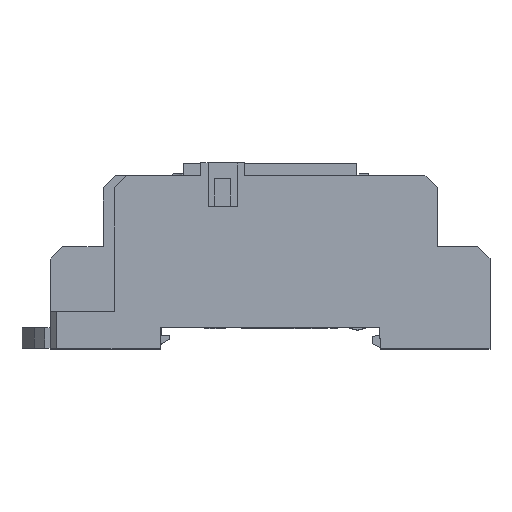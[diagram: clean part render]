
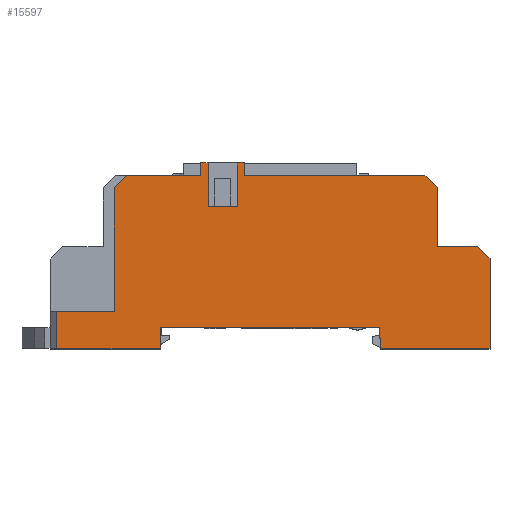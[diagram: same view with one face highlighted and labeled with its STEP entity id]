
A CAD part, top view. The second image highlights one B-rep face of the part: STEP entity #15597.
In plain terms, the highlighted planar face has unit normal (0, 0, 1).
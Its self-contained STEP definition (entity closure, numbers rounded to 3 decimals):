
#15597=ADVANCED_FACE('',(#19739),#17789,.T.);
#17789=PLANE('',#58201);
#19739=FACE_OUTER_BOUND('',#21965,.T.);
#21965=EDGE_LOOP('',(#30892,#30893,#30894,#30895,#30896,#30897,#30898,#30899,
#30900,#30901,#30902,#30903,#30904,#30905,#30906,#30907,#30908,#30909,#30910,
#30911,#30912,#30913,#30914));
#30892=ORIENTED_EDGE('',*,*,#44194,.T.);
#30893=ORIENTED_EDGE('',*,*,#44247,.T.);
#30894=ORIENTED_EDGE('',*,*,#44248,.T.);
#30895=ORIENTED_EDGE('',*,*,#44249,.T.);
#30896=ORIENTED_EDGE('',*,*,#44250,.T.);
#30897=ORIENTED_EDGE('',*,*,#44251,.T.);
#30898=ORIENTED_EDGE('',*,*,#44252,.T.);
#30899=ORIENTED_EDGE('',*,*,#44253,.T.);
#30900=ORIENTED_EDGE('',*,*,#44214,.T.);
#30901=ORIENTED_EDGE('',*,*,#44049,.T.);
#30902=ORIENTED_EDGE('',*,*,#44053,.T.);
#30903=ORIENTED_EDGE('',*,*,#44056,.T.);
#30904=ORIENTED_EDGE('',*,*,#44058,.T.);
#30905=ORIENTED_EDGE('',*,*,#42894,.T.);
#30906=ORIENTED_EDGE('',*,*,#44254,.T.);
#30907=ORIENTED_EDGE('',*,*,#44255,.T.);
#30908=ORIENTED_EDGE('',*,*,#43670,.T.);
#30909=ORIENTED_EDGE('',*,*,#44085,.T.);
#30910=ORIENTED_EDGE('',*,*,#43668,.T.);
#30911=ORIENTED_EDGE('',*,*,#44256,.T.);
#30912=ORIENTED_EDGE('',*,*,#44257,.T.);
#30913=ORIENTED_EDGE('',*,*,#42964,.T.);
#30914=ORIENTED_EDGE('',*,*,#44124,.T.);
#37921=VERTEX_POINT('',#78669);
#37922=VERTEX_POINT('',#78671);
#37991=VERTEX_POINT('',#79029);
#37992=VERTEX_POINT('',#79030);
#38484=VERTEX_POINT('',#80424);
#38485=VERTEX_POINT('',#80426);
#38486=VERTEX_POINT('',#80430);
#38487=VERTEX_POINT('',#80431);
#38714=VERTEX_POINT('',#81159);
#38715=VERTEX_POINT('',#81161);
#38717=VERTEX_POINT('',#81167);
#38719=VERTEX_POINT('',#81173);
#38753=VERTEX_POINT('',#81301);
#38803=VERTEX_POINT('',#81437);
#38814=VERTEX_POINT('',#81476);
#38832=VERTEX_POINT('',#81540);
#38833=VERTEX_POINT('',#81542);
#38834=VERTEX_POINT('',#81544);
#38835=VERTEX_POINT('',#81546);
#38836=VERTEX_POINT('',#81548);
#38837=VERTEX_POINT('',#81550);
#38838=VERTEX_POINT('',#81553);
#38839=VERTEX_POINT('',#81556);
#42894=EDGE_CURVE('',#37922,#37921,#48802,.T.);
#42964=EDGE_CURVE('',#37991,#37992,#48840,.T.);
#43668=EDGE_CURVE('',#38485,#38484,#49529,.T.);
#43670=EDGE_CURVE('',#38486,#38487,#49531,.T.);
#44049=EDGE_CURVE('',#38715,#38714,#49910,.T.);
#44053=EDGE_CURVE('',#38714,#38717,#49914,.T.);
#44056=EDGE_CURVE('',#38717,#38719,#49917,.T.);
#44058=EDGE_CURVE('',#38719,#37922,#49919,.T.);
#44085=EDGE_CURVE('',#38487,#38485,#49946,.T.);
#44124=EDGE_CURVE('',#37992,#38753,#49985,.T.);
#44194=EDGE_CURVE('',#38753,#38803,#50055,.T.);
#44214=EDGE_CURVE('',#38814,#38715,#50075,.T.);
#44247=EDGE_CURVE('',#38803,#38832,#50107,.T.);
#44248=EDGE_CURVE('',#38832,#38833,#50108,.T.);
#44249=EDGE_CURVE('',#38833,#38834,#50109,.T.);
#44250=EDGE_CURVE('',#38834,#38835,#50110,.T.);
#44251=EDGE_CURVE('',#38835,#38836,#50111,.T.);
#44252=EDGE_CURVE('',#38836,#38837,#50112,.T.);
#44253=EDGE_CURVE('',#38837,#38814,#50113,.T.);
#44254=EDGE_CURVE('',#37921,#38838,#50114,.T.);
#44255=EDGE_CURVE('',#38838,#38486,#50115,.T.);
#44256=EDGE_CURVE('',#38484,#38839,#50116,.T.);
#44257=EDGE_CURVE('',#38839,#37991,#50117,.T.);
#48802=LINE('',#78670,#53770);
#48840=LINE('',#79028,#53808);
#49529=LINE('',#80425,#54497);
#49531=LINE('',#80429,#54499);
#49910=LINE('',#81160,#54878);
#49914=LINE('',#81168,#54882);
#49917=LINE('',#81174,#54885);
#49919=LINE('',#81177,#54887);
#49946=LINE('',#81228,#54914);
#49985=LINE('',#81302,#54953);
#50055=LINE('',#81438,#55023);
#50075=LINE('',#81475,#55043);
#50107=LINE('',#81539,#55075);
#50108=LINE('',#81541,#55076);
#50109=LINE('',#81543,#55077);
#50110=LINE('',#81545,#55078);
#50111=LINE('',#81547,#55079);
#50112=LINE('',#81549,#55080);
#50113=LINE('',#81551,#55081);
#50114=LINE('',#81552,#55082);
#50115=LINE('',#81554,#55083);
#50116=LINE('',#81555,#55084);
#50117=LINE('',#81557,#55085);
#53770=VECTOR('',#63446,1.);
#53808=VECTOR('',#63492,1.);
#54497=VECTOR('',#64601,1.);
#54499=VECTOR('',#64605,1.);
#54878=VECTOR('',#65230,1.);
#54882=VECTOR('',#65236,1.);
#54885=VECTOR('',#65241,1.);
#54887=VECTOR('',#65245,1.);
#54914=VECTOR('',#65296,1.);
#54953=VECTOR('',#65361,1.);
#55023=VECTOR('',#65463,1.);
#55043=VECTOR('',#65497,1.);
#55075=VECTOR('',#65549,1.);
#55076=VECTOR('',#65550,1.);
#55077=VECTOR('',#65551,1.);
#55078=VECTOR('',#65552,1.);
#55079=VECTOR('',#65553,1.);
#55080=VECTOR('',#65554,1.);
#55081=VECTOR('',#65555,1.);
#55082=VECTOR('',#65556,1.);
#55083=VECTOR('',#65557,1.);
#55084=VECTOR('',#65558,1.);
#55085=VECTOR('',#65559,1.);
#58201=AXIS2_PLACEMENT_3D('',#81558,#65560,#65561);
#63446=DIRECTION('',(-1.,0.,0.));
#63492=DIRECTION('',(-1.,0.,0.));
#64601=DIRECTION('',(0.,1.,0.));
#64605=DIRECTION('',(0.,-1.,0.));
#65230=DIRECTION('',(-0.707,0.707,0.));
#65236=DIRECTION('',(-1.,0.,0.));
#65241=DIRECTION('',(0.,1.,0.));
#65245=DIRECTION('',(-0.707,0.707,0.));
#65296=DIRECTION('',(-1.,0.,0.));
#65361=DIRECTION('',(-0.707,-0.707,0.));
#65463=DIRECTION('',(0.,-1.,0.));
#65497=DIRECTION('',(0.,1.,0.));
#65549=DIRECTION('',(-1.,0.,0.));
#65550=DIRECTION('',(0.,-1.,0.));
#65551=DIRECTION('',(1.,0.,0.));
#65552=DIRECTION('',(0.017,1.,0.));
#65553=DIRECTION('',(1.,0.,0.));
#65554=DIRECTION('',(0.017,-1.,0.));
#65555=DIRECTION('',(1.,0.,0.));
#65556=DIRECTION('',(0.,1.,0.));
#65557=DIRECTION('',(-1.,0.,0.));
#65558=DIRECTION('',(-1.,0.,0.));
#65559=DIRECTION('',(0.,-1.,0.));
#65560=DIRECTION('',(0.,0.,1.));
#65561=DIRECTION('',(1.,0.,0.));
#78669=CARTESIAN_POINT('',(31.3,28.,0.));
#78670=CARTESIAN_POINT('',(60.5,28.,0.));
#78671=CARTESIAN_POINT('',(60.5,28.,0.));
#79028=CARTESIAN_POINT('',(30.15,28.,0.));
#79029=CARTESIAN_POINT('',(24.3,28.,0.));
#79030=CARTESIAN_POINT('',(12.3,28.,0.));
#80424=CARTESIAN_POINT('',(25.45,30.,0.));
#80425=CARTESIAN_POINT('',(25.45,23.,0.));
#80426=CARTESIAN_POINT('',(25.45,23.,0.));
#80429=CARTESIAN_POINT('',(30.15,30.,0.));
#80430=CARTESIAN_POINT('',(30.15,30.,0.));
#80431=CARTESIAN_POINT('',(30.15,23.,0.));
#81159=CARTESIAN_POINT('',(69.,16.5,0.));
#81160=CARTESIAN_POINT('',(71.,14.5,0.));
#81161=CARTESIAN_POINT('',(71.,14.5,0.));
#81167=CARTESIAN_POINT('',(62.5,16.5,0.));
#81168=CARTESIAN_POINT('',(69.,16.5,0.));
#81173=CARTESIAN_POINT('',(62.5,26.,0.));
#81174=CARTESIAN_POINT('',(62.5,16.5,0.));
#81177=CARTESIAN_POINT('',(62.5,26.,0.));
#81228=CARTESIAN_POINT('',(30.15,23.,0.));
#81301=CARTESIAN_POINT('',(10.3,26.,0.));
#81302=CARTESIAN_POINT('',(12.3,28.,0.));
#81437=CARTESIAN_POINT('',(10.3,6.,0.));
#81438=CARTESIAN_POINT('',(10.3,26.,0.));
#81475=CARTESIAN_POINT('',(71.,0.,0.));
#81476=CARTESIAN_POINT('',(71.,0.,0.));
#81539=CARTESIAN_POINT('',(10.3,6.,0.));
#81540=CARTESIAN_POINT('',(1.,6.,0.));
#81541=CARTESIAN_POINT('',(1.,0.,0.));
#81542=CARTESIAN_POINT('',(1.,0.,0.));
#81543=CARTESIAN_POINT('',(1.393,0.,0.));
#81544=CARTESIAN_POINT('',(17.741,0.,0.));
#81545=CARTESIAN_POINT('',(17.741,0.,0.));
#81546=CARTESIAN_POINT('',(17.8,3.4,0.));
#81547=CARTESIAN_POINT('',(17.8,3.4,0.));
#81548=CARTESIAN_POINT('',(53.2,3.4,0.));
#81549=CARTESIAN_POINT('',(53.2,3.4,0.));
#81550=CARTESIAN_POINT('',(53.259,0.,0.));
#81551=CARTESIAN_POINT('',(53.259,0.,0.));
#81552=CARTESIAN_POINT('',(31.3,28.,0.));
#81553=CARTESIAN_POINT('',(31.3,30.,0.));
#81554=CARTESIAN_POINT('',(31.3,30.,0.));
#81555=CARTESIAN_POINT('',(25.45,30.,0.));
#81556=CARTESIAN_POINT('',(24.3,30.,0.));
#81557=CARTESIAN_POINT('',(24.3,30.,0.));
#81558=CARTESIAN_POINT('',(30.15,30.,0.));
